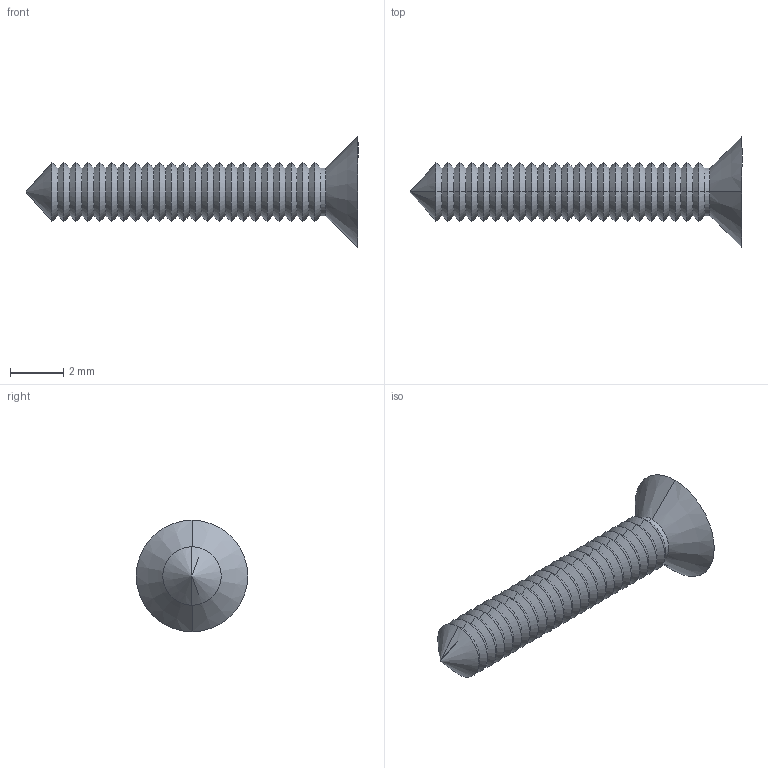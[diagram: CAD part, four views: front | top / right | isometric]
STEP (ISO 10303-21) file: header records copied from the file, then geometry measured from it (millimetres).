
FILE_DESCRIPTION (( 'STEP AP214' ), '1' );
FILE_NAME ('Cargol M 3x8 PP41.STEP', '2016-10-07T10:32:28', ( 'aaa' ), ( '' ), 'SwSTEP 2.0', 'SolidWorks 2013', '' );
FILE_SCHEMA (( 'AUTOMOTIVE_DESIGN' ));
Length unit declared in the file: millimetre
Products named in the file (1): Cargol M 3x8 PP41
Bounding box: 12.5 x 4.2 x 4.2 mm (x, y, z)
Volume: 41.8 mm3; surface area: 124.8 mm2
Topology: 1 solids, 1 shells, 110 faces, 230 edges, 121 vertices
Faces by surface type: cone 94, plane 14, cylinder 2
Entity records: 2858 total; most frequent: DIRECTION 546, CARTESIAN_POINT 460, ORIENTED_EDGE 456, EDGE_CURVE 228, AXIS2_PLACEMENT_3D 207, LINE 132, VECTOR 132, VERTEX_POINT 121
